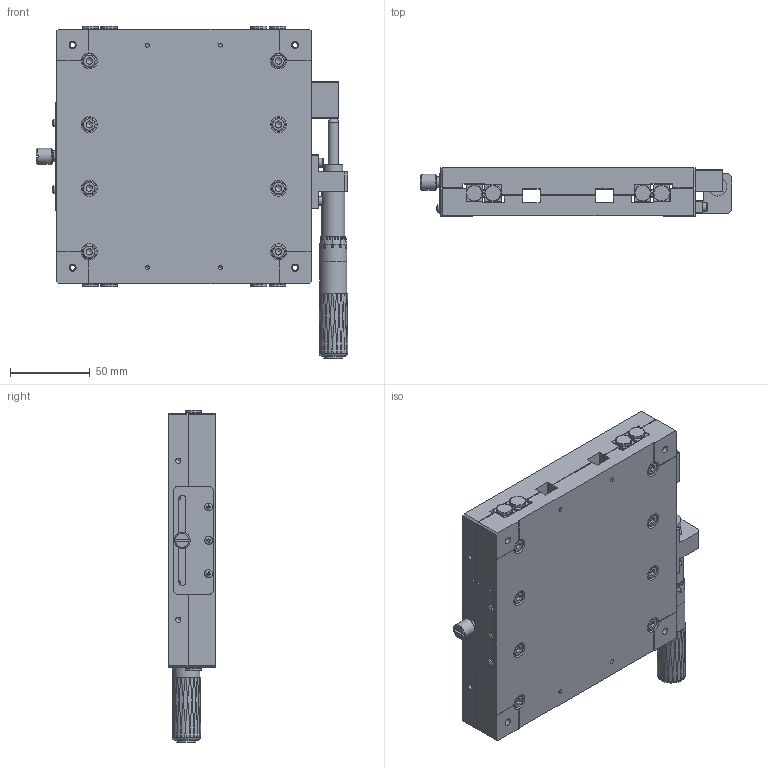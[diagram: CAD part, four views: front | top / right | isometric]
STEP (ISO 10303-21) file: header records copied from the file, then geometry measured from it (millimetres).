
FILE_DESCRIPTION (( 'STEP AP203' ), '1' );
FILE_NAME ('BPA160.STEP', '2024-07-26T03:08:21', ( 'Windows User' ), ( 'P R C' ), 'SwSTEP 2.0', 'SolidWorks 2024', '' );
FILE_SCHEMA (( 'CONFIG_CONTROL_DESIGN' ));
Products named in the file (1): BPA160
Bounding box: 195.8 x 30 x 208.81 mm (x, y, z)
Volume: 783031 mm3; surface area: 230501.3 mm2
Topology: 33 solids, 33 shells, 2467 faces, 6389 edges, 4140 vertices
Faces by surface type: plane 868, bspline 824, cylinder 409, cone 324, torus 38, sphere 4
Full cylindrical faces by diameter (mm): 2.05 x3, 2.5 x12, 3 x3, 3.2 x3, 3.3 x52, 4 x32, 4.2 x2, 4.3 x30, 4.5 x4, 5 x11, 5.5 x10, 6.5 x2, 7 x3, 7.6 x2, 8 x32, 8.1 x1, 8.5 x9, 10 x9, 10.2 x12, 11.65 x1, 12 x3, 15.471 x1, 17 x2
Entity records: 116120 total; most frequent: CARTESIAN_POINT 65968, ORIENTED_EDGE 11612, DIRECTION 7004, EDGE_CURVE 5806, VERTEX_POINT 4028, EDGE_LOOP 3364, B_SPLINE_CURVE_WITH_KNOTS 2768, FACE_OUTER_BOUND 2747
